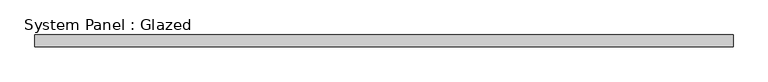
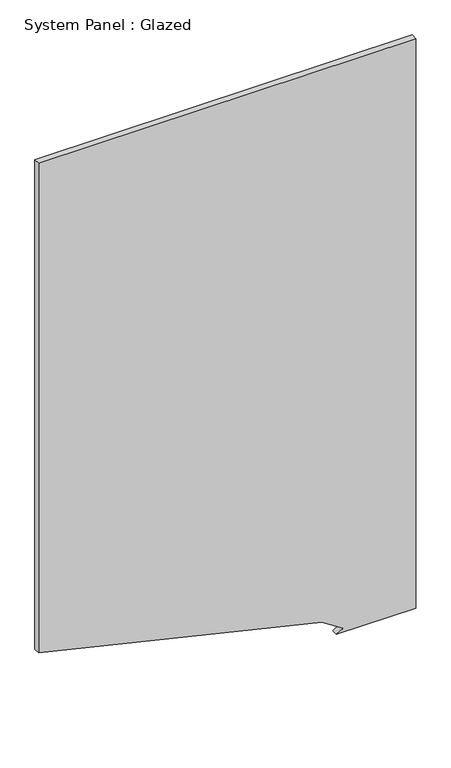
"""IFC4 building model written with IfcOpenShell, lengths in millimetres: plate geometry, System Panel : Glazed."""

from ifc_helpers import new_model, si_unit, frame, origin, place, context, project, spatial, polyline, outline, extrude, source, transform, mapped, element, save


def system_panel_glazed_15bccd19(model_context):
    return source(origin(), model_context, "Body", "SweptSolid", [
        extrude(outline(polyline([(0.0, 426.4912537), (0.0, 735.8695652), (2350.0, 735.8695652), (2350.0, -735.8695652), (330.9525895, -735.8695652), (71.1702894, 369.9154794), (16.9766442, 453.6566976), (0.0, 426.4912537)])), frame((0.0, 24.5, 0.0), z_axis=(0.0, 1.0, 0.0), x_axis=(0.0, 0.0, 1.0)), (0.0, 0.0, 1.0), 25.0),
    ])


if __name__ == "__main__":
    model = new_model("IFC4")
    model_context = context("Model", 3, world=origin())
    ifc_project = project(units=[si_unit("LENGTHUNIT", "METRE", prefix="MILLI")], contexts=[model_context])
    site = spatial("IfcSite", under=ifc_project)
    building = spatial("IfcBuilding", under=site)
    placement = place(None, origin())
    system_panel_glazed_shape = system_panel_glazed_15bccd19(model_context)
    element("IfcPlate", 1, ObjectType="System Panel : Glazed", at=placement, inside=building, context=model_context, shape_type="MappedRepresentation", body=[
        mapped(system_panel_glazed_shape, transform((0.0, 0.0, 0.0), x_axis=(1.0, 0.0, 0.0), y_axis=(0.0, 1.0, 0.0), z_axis=(0.0, 0.0, 1.0))),
    ])
    save(model, "model.ifc")
